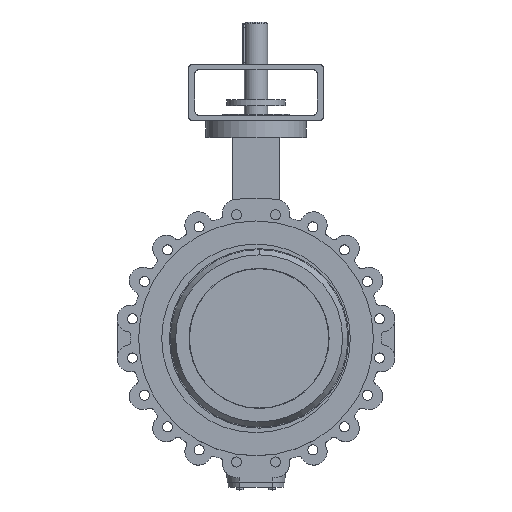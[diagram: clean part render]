
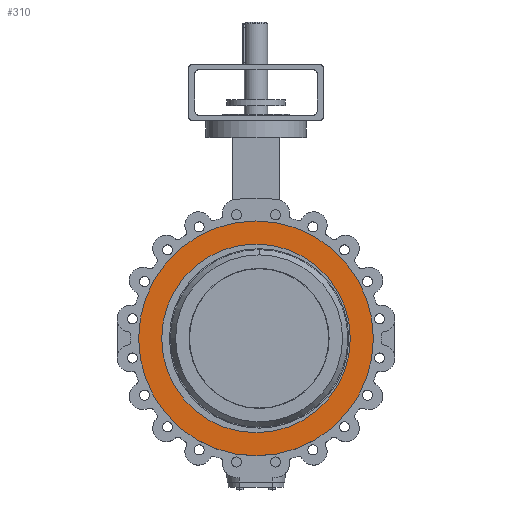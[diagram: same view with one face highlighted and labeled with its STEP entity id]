
A CAD part, top view. The second image highlights one B-rep face of the part: STEP entity #310.
In plain terms, the highlighted planar face has unit normal (0, 0, 1).
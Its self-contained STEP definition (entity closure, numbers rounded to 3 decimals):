
#310 = ADVANCED_FACE( '', ( #921, #922 ), #923, .T. );
#921 = FACE_BOUND( '', #1673, .T. );
#922 = FACE_OUTER_BOUND( '', #1674, .T. );
#923 = PLANE( '', #1675 );
#1673 = EDGE_LOOP( '', ( #3739, #3740, #3741 ) );
#1674 = EDGE_LOOP( '', ( #3742, #3743 ) );
#1675 = AXIS2_PLACEMENT_3D( '', #3744, #3745, #3746 );
#3739 = ORIENTED_EDGE( '', *, *, #4714, .F. );
#3740 = ORIENTED_EDGE( '', *, *, #4713, .F. );
#3741 = ORIENTED_EDGE( '', *, *, #5336, .F. );
#3742 = ORIENTED_EDGE( '', *, *, #4720, .T. );
#3743 = ORIENTED_EDGE( '', *, *, #5334, .T. );
#3744 = CARTESIAN_POINT( '', ( 0., 275., 83.5 ) );
#3745 = DIRECTION( '', ( 0., 0., 1. ) );
#3746 = DIRECTION( '', ( 0., 1., 0. ) );
#4713 = EDGE_CURVE( '', #5614, #5617, #5618, .T. );
#4714 = EDGE_CURVE( '', #5617, #5619, #5620, .T. );
#4720 = EDGE_CURVE( '', #5625, #5629, #5631, .T. );
#5334 = EDGE_CURVE( '', #5629, #5625, #6655, .T. );
#5336 = EDGE_CURVE( '', #5619, #5614, #6657, .T. );
#5614 = VERTEX_POINT( '', #7118 );
#5617 = VERTEX_POINT( '', #7122 );
#5618 = CIRCLE( '', #7123, 245. );
#5619 = VERTEX_POINT( '', #7124 );
#5620 = CIRCLE( '', #7125, 245. );
#5625 = VERTEX_POINT( '', #7131 );
#5629 = VERTEX_POINT( '', #7136 );
#5631 = CIRCLE( '', #7139, 305. );
#6655 = CIRCLE( '', #9149, 305. );
#6657 = CIRCLE( '', #9151, 245. );
#7118 = CARTESIAN_POINT( '', ( 245., 0., 83.5 ) );
#7122 = CARTESIAN_POINT( '', ( 0., 245., 83.5 ) );
#7123 = AXIS2_PLACEMENT_3D( '', #9805, #9806, #9807 );
#7124 = CARTESIAN_POINT( '', ( -245., 0., 83.5 ) );
#7125 = AXIS2_PLACEMENT_3D( '', #9808, #9809, #9810 );
#7131 = CARTESIAN_POINT( '', ( 0., 305., 83.5 ) );
#7136 = CARTESIAN_POINT( '', ( 0., -305., 83.5 ) );
#7139 = AXIS2_PLACEMENT_3D( '', #9820, #9821, #9822 );
#9149 = AXIS2_PLACEMENT_3D( '', #10976, #10977, #10978 );
#9151 = AXIS2_PLACEMENT_3D( '', #10982, #10983, #10984 );
#9805 = CARTESIAN_POINT( '', ( 0., 0., 83.5 ) );
#9806 = DIRECTION( '', ( 0., 0., 1. ) );
#9807 = DIRECTION( '', ( 0., 1., 0. ) );
#9808 = CARTESIAN_POINT( '', ( 0., 0., 83.5 ) );
#9809 = DIRECTION( '', ( 0., 0., 1. ) );
#9810 = DIRECTION( '', ( 0., 1., 0. ) );
#9820 = CARTESIAN_POINT( '', ( 0., 0., 83.5 ) );
#9821 = DIRECTION( '', ( 0., 0., 1. ) );
#9822 = DIRECTION( '', ( 0., 1., 0. ) );
#10976 = CARTESIAN_POINT( '', ( 0., 0., 83.5 ) );
#10977 = DIRECTION( '', ( 0., 0., 1. ) );
#10978 = DIRECTION( '', ( 0., 1., 0. ) );
#10982 = CARTESIAN_POINT( '', ( 0., 0., 83.5 ) );
#10983 = DIRECTION( '', ( 0., 0., 1. ) );
#10984 = DIRECTION( '', ( 0., 1., 0. ) );
